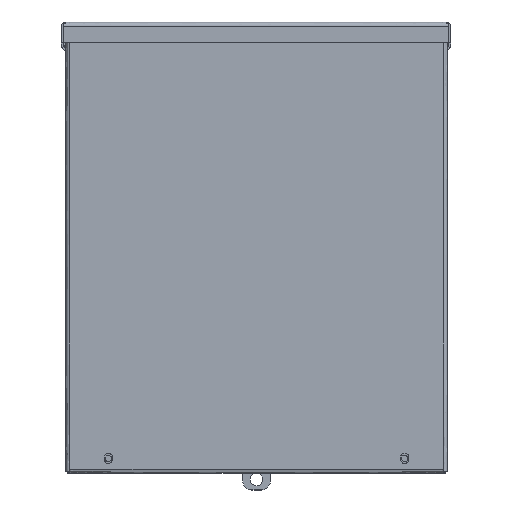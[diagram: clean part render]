
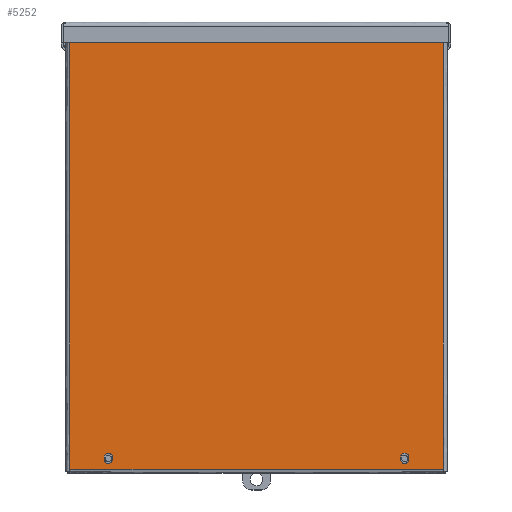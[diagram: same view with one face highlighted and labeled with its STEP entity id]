
A CAD part, top view. The second image highlights one B-rep face of the part: STEP entity #5252.
In plain terms, the highlighted free-form (B-spline) face has degree [1, 1] with [2, 2] control points.
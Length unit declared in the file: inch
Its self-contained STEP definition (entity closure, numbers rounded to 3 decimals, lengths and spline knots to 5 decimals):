
#4467=CARTESIAN_POINT('V71',(0.9855,-0.055,
   11.622));
#4468=VERTEX_POINT('V71',#4467);
#4476=CARTESIAN_POINT('V74',(1.2045,-0.055,
   11.622));
#4477=VERTEX_POINT('V74',#4476);
#4478=CARTESIAN_POINT('E88',(1.2045,-0.055,
   11.622));
#4479=CARTESIAN_POINT('E88',(1.2045,-0.055,
   11.5125));
#4480=CARTESIAN_POINT('E88',(1.095,-0.055,
   11.5125));
#4481=CARTESIAN_POINT('E88',(0.9855,-0.055,
   11.5125));
#4482=CARTESIAN_POINT('E88',(0.9855,-0.055,
   11.622));
#4490=(BOUNDED_CURVE()B_SPLINE_CURVE(2,(#4478,#4479,#4480,#4481,
   #4482),.CIRCULAR_ARC.,.F.,.U.)B_SPLINE_CURVE_WITH_KNOTS((3,2,3),
   (0.0,0.5,1.0),.UNSPECIFIED.)CURVE()
   GEOMETRIC_REPRESENTATION_ITEM()RATIONAL_B_SPLINE_CURVE((1.0,
   0.707,1.0,0.707,1.0))REPRESENTATION_ITEM(
   'E88'));
#4491=EDGE_CURVE('E88',#4477,#4468,#4490,.T.);
#4524=CARTESIAN_POINT('V73',(1.2045,-0.055,
   11.684));
#4525=VERTEX_POINT('V73',#4524);
#4526=CARTESIAN_POINT('E87',(1.2045,-0.055,
   11.684));
#4527=CARTESIAN_POINT('E87',(1.2045,-0.055,
   11.622));
#4528=QUASI_UNIFORM_CURVE('E87',1,(#4526,#4527),.POLYLINE_FORM.,.F.,
   .U.);
#4529=EDGE_CURVE('E87',#4525,#4477,#4528,.T.);
#4565=CARTESIAN_POINT('V72',(0.9855,-0.055,
   11.684));
#4566=VERTEX_POINT('V72',#4565);
#4567=CARTESIAN_POINT('E86',(0.9855,-0.055,
   11.684));
#4568=CARTESIAN_POINT('E86',(0.9855,-0.055,
   11.7935));
#4569=CARTESIAN_POINT('E86',(1.095,-0.055,
   11.7935));
#4570=CARTESIAN_POINT('E86',(1.2045,-0.055,
   11.7935));
#4571=CARTESIAN_POINT('E86',(1.2045,-0.055,
   11.684));
#4579=(BOUNDED_CURVE()B_SPLINE_CURVE(2,(#4567,#4568,#4569,#4570,
   #4571),.CIRCULAR_ARC.,.F.,.U.)B_SPLINE_CURVE_WITH_KNOTS((3,2,3),
   (0.0,0.5,1.0),.UNSPECIFIED.)CURVE()
   GEOMETRIC_REPRESENTATION_ITEM()RATIONAL_B_SPLINE_CURVE((1.0,
   0.707,1.0,0.707,1.0))REPRESENTATION_ITEM(
   'E86'));
#4580=EDGE_CURVE('E86',#4566,#4525,#4579,.T.);
#4613=CARTESIAN_POINT('E85',(0.9855,-0.055,
   11.622));
#4614=CARTESIAN_POINT('E85',(0.9855,-0.055,
   11.684));
#4615=QUASI_UNIFORM_CURVE('E85',1,(#4613,#4614),.POLYLINE_FORM.,.F.,
   .U.);
#4616=EDGE_CURVE('E85',#4468,#4566,#4615,.T.);
#4645=CARTESIAN_POINT('V67',(9.2045,-0.055,
   11.684));
#4646=VERTEX_POINT('V67',#4645);
#4654=CARTESIAN_POINT('V70',(8.9855,-0.055,
   11.684));
#4655=VERTEX_POINT('V70',#4654);
#4656=CARTESIAN_POINT('E84',(8.9855,-0.055,
   11.684));
#4657=CARTESIAN_POINT('E84',(8.9855,-0.055,
   11.7935));
#4658=CARTESIAN_POINT('E84',(9.095,-0.055,
   11.7935));
#4659=CARTESIAN_POINT('E84',(9.2045,-0.055,
   11.7935));
#4660=CARTESIAN_POINT('E84',(9.2045,-0.055,
   11.684));
#4668=(BOUNDED_CURVE()B_SPLINE_CURVE(2,(#4656,#4657,#4658,#4659,
   #4660),.CIRCULAR_ARC.,.F.,.U.)B_SPLINE_CURVE_WITH_KNOTS((3,2,3),
   (0.0,0.5,1.0),.UNSPECIFIED.)CURVE()
   GEOMETRIC_REPRESENTATION_ITEM()RATIONAL_B_SPLINE_CURVE((1.0,
   0.707,1.0,0.707,1.0))REPRESENTATION_ITEM(
   'E84'));
#4669=EDGE_CURVE('E84',#4655,#4646,#4668,.T.);
#4702=CARTESIAN_POINT('V69',(8.9855,-0.055,
   11.622));
#4703=VERTEX_POINT('V69',#4702);
#4704=CARTESIAN_POINT('E83',(8.9855,-0.055,
   11.622));
#4705=CARTESIAN_POINT('E83',(8.9855,-0.055,
   11.684));
#4706=QUASI_UNIFORM_CURVE('E83',1,(#4704,#4705),.POLYLINE_FORM.,.F.,
   .U.);
#4707=EDGE_CURVE('E83',#4703,#4655,#4706,.T.);
#4743=CARTESIAN_POINT('V68',(9.2045,-0.055,
   11.622));
#4744=VERTEX_POINT('V68',#4743);
#4745=CARTESIAN_POINT('E82',(9.2045,-0.055,
   11.622));
#4746=CARTESIAN_POINT('E82',(9.2045,-0.055,
   11.5125));
#4747=CARTESIAN_POINT('E82',(9.095,-0.055,
   11.5125));
#4748=CARTESIAN_POINT('E82',(8.9855,-0.055,
   11.5125));
#4749=CARTESIAN_POINT('E82',(8.9855,-0.055,
   11.622));
#4757=(BOUNDED_CURVE()B_SPLINE_CURVE(2,(#4745,#4746,#4747,#4748,
   #4749),.CIRCULAR_ARC.,.F.,.U.)B_SPLINE_CURVE_WITH_KNOTS((3,2,3),
   (0.0,0.5,1.0),.UNSPECIFIED.)CURVE()
   GEOMETRIC_REPRESENTATION_ITEM()RATIONAL_B_SPLINE_CURVE((1.0,
   0.707,1.0,0.707,1.0))REPRESENTATION_ITEM(
   'E82'));
#4758=EDGE_CURVE('E82',#4744,#4703,#4757,.T.);
#4791=CARTESIAN_POINT('E81',(9.2045,-0.055,
   11.684));
#4792=CARTESIAN_POINT('E81',(9.2045,-0.055,
   11.622));
#4793=QUASI_UNIFORM_CURVE('E81',1,(#4791,#4792),.POLYLINE_FORM.,.F.,
   .U.);
#4794=EDGE_CURVE('E81',#4646,#4744,#4793,.T.);
#5149=CARTESIAN_POINT('V44',(0.06,-0.055,
   11.945));
#5150=VERTEX_POINT('V44',#5149);
#5187=CARTESIAN_POINT('V45',(0.06,-0.055,
   0.0));
#5188=VERTEX_POINT('V45',#5187);
#5189=CARTESIAN_POINT('E52',(0.06,-0.055,
   0.0));
#5190=CARTESIAN_POINT('E52',(0.06,-0.055,
   11.945));
#5191=QUASI_UNIFORM_CURVE('E52',1,(#5189,#5190),.POLYLINE_FORM.,.F.,
   .U.);
#5192=EDGE_CURVE('E52',#5188,#5150,#5191,.T.);
#5213=CARTESIAN_POINT('F21',(10.13,-0.055,
   0.0));
#5214=CARTESIAN_POINT('F21',(10.13,-0.055,
   11.945));
#5215=CARTESIAN_POINT('F21',(0.06,-0.055,
   0.0));
#5216=CARTESIAN_POINT('F21',(0.06,-0.055,
   11.945));
#5217=B_SPLINE_SURFACE_WITH_KNOTS('F21',1,1,((#5213,#5215),(#5214,
   #5216)),.PLANE_SURF.,.F.,.F.,.U.,(2,2),(2,2),(
   0.00012,1.18604),(0.00012,
   0.99988),.UNSPECIFIED.);
#5218=CARTESIAN_POINT('V41',(10.13,-0.055,
   0.0));
#5219=VERTEX_POINT('V41',#5218);
#5220=CARTESIAN_POINT('E80',(0.06,-0.055,
   0.0));
#5221=CARTESIAN_POINT('E80',(10.13,-0.055,
   0.0));
#5222=QUASI_UNIFORM_CURVE('E80',1,(#5220,#5221),.POLYLINE_FORM.,.F.,
   .U.);
#5223=EDGE_CURVE('E80',#5188,#5219,#5222,.T.);
#5224=ORIENTED_EDGE('E80',*,*,#5223,.T.);
#5225=CARTESIAN_POINT('V40',(10.13,-0.055,
   11.945));
#5226=VERTEX_POINT('V40',#5225);
#5227=CARTESIAN_POINT('E48',(10.13,-0.055,
   11.945));
#5228=CARTESIAN_POINT('E48',(10.13,-0.055,
   0.0));
#5229=QUASI_UNIFORM_CURVE('E48',1,(#5227,#5228),.POLYLINE_FORM.,.F.,
   .U.);
#5230=EDGE_CURVE('E48',#5226,#5219,#5229,.T.);
#5231=ORIENTED_EDGE('E48',*,*,#5230,.F.);
#5232=CARTESIAN_POINT('E60',(0.06,-0.055,
   11.945));
#5233=CARTESIAN_POINT('E60',(10.13,-0.055,
   11.945));
#5234=QUASI_UNIFORM_CURVE('E60',1,(#5232,#5233),.POLYLINE_FORM.,.F.,
   .U.);
#5235=EDGE_CURVE('E60',#5150,#5226,#5234,.T.);
#5236=ORIENTED_EDGE('E60',*,*,#5235,.F.);
#5237=ORIENTED_EDGE('E52',*,*,#5192,.F.);
#5238=EDGE_LOOP('F21',(#5224,#5231,#5236,#5237));
#5239=FACE_OUTER_BOUND('F21',#5238,.T.);
#5240=ORIENTED_EDGE('E81',*,*,#4794,.T.);
#5241=ORIENTED_EDGE('E82',*,*,#4758,.T.);
#5242=ORIENTED_EDGE('E83',*,*,#4707,.T.);
#5243=ORIENTED_EDGE('E84',*,*,#4669,.T.);
#5244=EDGE_LOOP('F21',(#5240,#5241,#5242,#5243));
#5245=FACE_BOUND('F21',#5244,.T.);
#5246=ORIENTED_EDGE('E85',*,*,#4616,.T.);
#5247=ORIENTED_EDGE('E86',*,*,#4580,.T.);
#5248=ORIENTED_EDGE('E87',*,*,#4529,.T.);
#5249=ORIENTED_EDGE('E88',*,*,#4491,.T.);
#5250=EDGE_LOOP('F21',(#5246,#5247,#5248,#5249));
#5251=FACE_BOUND('F21',#5250,.T.);
#5252=ADVANCED_FACE('F21',(#5239,#5245,#5251),#5217,.T.);
